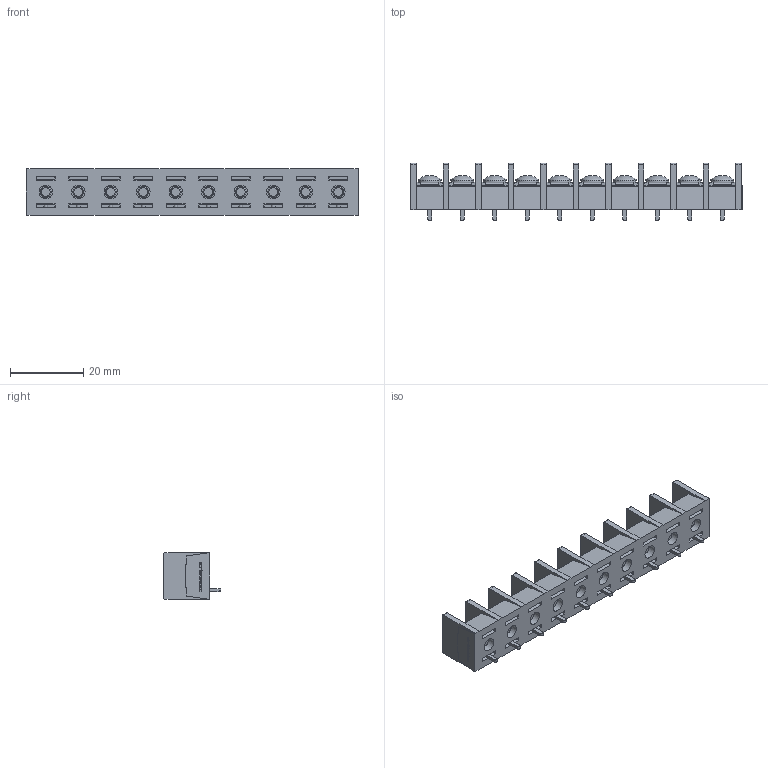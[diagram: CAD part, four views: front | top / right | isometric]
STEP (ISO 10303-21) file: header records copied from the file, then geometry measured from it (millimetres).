
FILE_DESCRIPTION(/* description */ ('Alibre Inc.'),/* implementation_level */ '2;1');
FILE_NAME(/* name */ 'export0',/* time_stamp */ '2015-10-20T19:45:39+09:00',/* author */ (''),/* organization */ (''),/* preprocessor_version */ 'ST-DEVELOPER v14',/* originating_system */ 'Alibre',/* authorisation */ '');
FILE_SCHEMA (('CONFIG_CONTROL_DESIGN'));
Length unit declared in the file: centimetre
Products named in the file (1): ID_1
Bounding box: 90.81 x 15.8 x 12.8 mm (x, y, z)
Volume: 8414.7 mm3; surface area: 10442.1 mm2
Topology: 1 solids, 171 shells, 3200 faces, 8210 edges, 5432 vertices
Faces by surface type: plane 2394, bspline 624, cylinder 102, cone 50, torus 20, sphere 10
Full cylindrical faces by diameter (mm): 3 x20, 3.7 x10, 4.6 x10, 6.3 x10
Entity records: 92311 total; most frequent: CARTESIAN_POINT 22327, ORIENTED_EDGE 16200, DIRECTION 9664, EDGE_CURVE 8100, VECTOR 6236, LINE 6236, VERTEX_POINT 5402, EDGE_LOOP 3500
